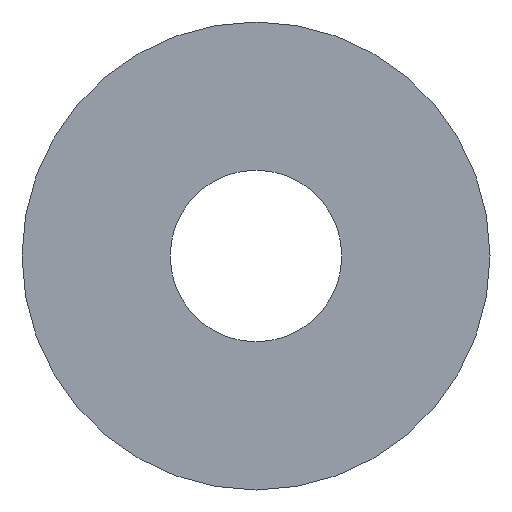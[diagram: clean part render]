
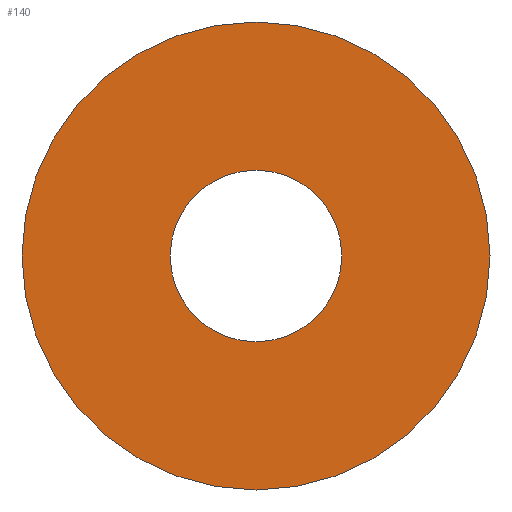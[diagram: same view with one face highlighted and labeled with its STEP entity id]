
A CAD part, front view. The second image highlights one B-rep face of the part: STEP entity #140.
In plain terms, the highlighted planar face has unit normal (0, -1, 0).
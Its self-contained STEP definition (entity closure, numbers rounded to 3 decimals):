
#31 = CYLINDRICAL_SURFACE('',#32,9.);
#32 = AXIS2_PLACEMENT_3D('',#33,#34,#35);
#33 = CARTESIAN_POINT('',(0.,0.,0.));
#34 = DIRECTION('',(0.,1.,0.));
#35 = DIRECTION('',(0.,-0.,1.));
#56 = VERTEX_POINT('',#57);
#57 = CARTESIAN_POINT('',(0.,0.,9.));
#78 = EDGE_CURVE('',#56,#56,#79,.T.);
#79 = SURFACE_CURVE('',#80,(#85,#92),.PCURVE_S1.);
#80 = CIRCLE('',#81,9.);
#81 = AXIS2_PLACEMENT_3D('',#82,#83,#84);
#82 = CARTESIAN_POINT('',(0.,0.,0.));
#83 = DIRECTION('',(0.,1.,0.));
#84 = DIRECTION('',(0.,-0.,1.));
#85 = PCURVE('',#31,#86);
#86 = DEFINITIONAL_REPRESENTATION('',(#87),#91);
#87 = LINE('',#88,#89);
#88 = CARTESIAN_POINT('',(0.,0.));
#89 = VECTOR('',#90,1.);
#90 = DIRECTION('',(1.,0.));
#91 = ( GEOMETRIC_REPRESENTATION_CONTEXT(2) 
PARAMETRIC_REPRESENTATION_CONTEXT() REPRESENTATION_CONTEXT('2D SPACE',''
  ) );
#92 = PCURVE('',#93,#98);
#93 = PLANE('',#94);
#94 = AXIS2_PLACEMENT_3D('',#95,#96,#97);
#95 = CARTESIAN_POINT('',(0.,0.,0.));
#96 = DIRECTION('',(0.,1.,0.));
#97 = DIRECTION('',(0.,-0.,1.));
#98 = DEFINITIONAL_REPRESENTATION('',(#99),#103);
#99 = CIRCLE('',#100,9.);
#100 = AXIS2_PLACEMENT_2D('',#101,#102);
#101 = CARTESIAN_POINT('',(0.,0.));
#102 = DIRECTION('',(1.,0.));
#103 = ( GEOMETRIC_REPRESENTATION_CONTEXT(2) 
PARAMETRIC_REPRESENTATION_CONTEXT() REPRESENTATION_CONTEXT('2D SPACE',''
  ) );
#129 = CYLINDRICAL_SURFACE('',#130,3.3);
#130 = AXIS2_PLACEMENT_3D('',#131,#132,#133);
#131 = CARTESIAN_POINT('',(0.,-1.,0.));
#132 = DIRECTION('',(0.,1.,0.));
#133 = DIRECTION('',(0.,-0.,1.));
#140 = ADVANCED_FACE('',(#141,#144),#93,.F.);
#141 = FACE_BOUND('',#142,.F.);
#142 = EDGE_LOOP('',(#143));
#143 = ORIENTED_EDGE('',*,*,#78,.T.);
#144 = FACE_BOUND('',#145,.F.);
#145 = EDGE_LOOP('',(#146));
#146 = ORIENTED_EDGE('',*,*,#147,.F.);
#147 = EDGE_CURVE('',#148,#148,#150,.T.);
#148 = VERTEX_POINT('',#149);
#149 = CARTESIAN_POINT('',(0.,0.,3.3));
#150 = SURFACE_CURVE('',#151,(#156,#163),.PCURVE_S1.);
#151 = CIRCLE('',#152,3.3);
#152 = AXIS2_PLACEMENT_3D('',#153,#154,#155);
#153 = CARTESIAN_POINT('',(0.,0.,0.));
#154 = DIRECTION('',(0.,1.,0.));
#155 = DIRECTION('',(0.,-0.,1.));
#156 = PCURVE('',#93,#157);
#157 = DEFINITIONAL_REPRESENTATION('',(#158),#162);
#158 = CIRCLE('',#159,3.3);
#159 = AXIS2_PLACEMENT_2D('',#160,#161);
#160 = CARTESIAN_POINT('',(0.,0.));
#161 = DIRECTION('',(1.,0.));
#162 = ( GEOMETRIC_REPRESENTATION_CONTEXT(2) 
PARAMETRIC_REPRESENTATION_CONTEXT() REPRESENTATION_CONTEXT('2D SPACE',''
  ) );
#163 = PCURVE('',#129,#164);
#164 = DEFINITIONAL_REPRESENTATION('',(#165),#169);
#165 = LINE('',#166,#167);
#166 = CARTESIAN_POINT('',(0.,1.));
#167 = VECTOR('',#168,1.);
#168 = DIRECTION('',(1.,0.));
#169 = ( GEOMETRIC_REPRESENTATION_CONTEXT(2) 
PARAMETRIC_REPRESENTATION_CONTEXT() REPRESENTATION_CONTEXT('2D SPACE',''
  ) );
